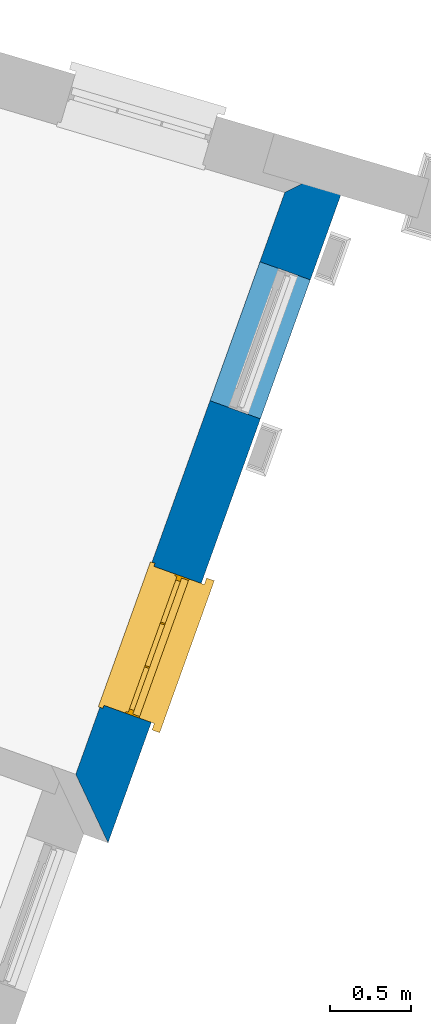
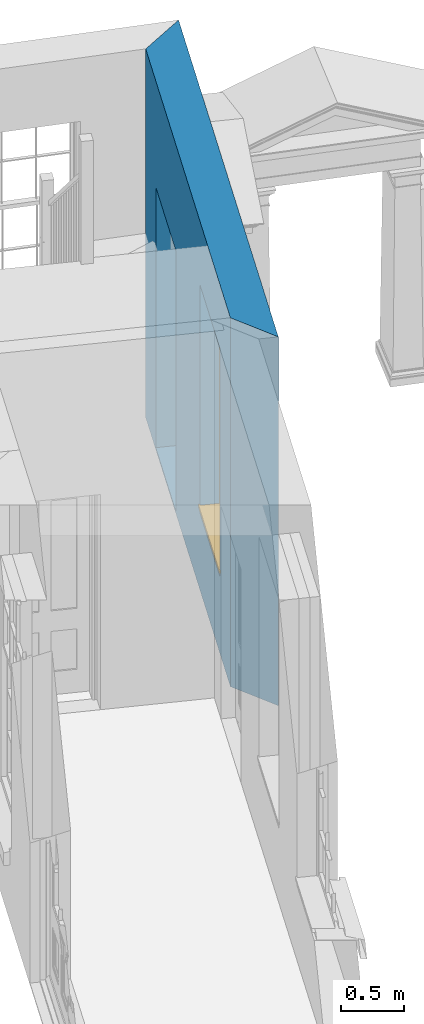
# One storey, part 5 of 7: 1 wall, 1 window, 2 openings.
"""IFC4 building model written with IfcOpenShell, lengths in metres."""

from ifc_helpers import new_model, si_unit, frame, origin, origin_with_axes, place, context, subcontext, project, spatial, polyline, outline, extrude, faceted_brep, source, transform, mapped, material, layer, layer_set, layer_usage, type_object, type_shapes, element, fill, save


model = new_model("IFC4")

# Units and contexts
model_context = context("Model", 3, world=origin_with_axes())
body_context = subcontext(model_context, "Body", "Model", "MODEL_VIEW")
ifc_project = project(units=[si_unit("PLANEANGLEUNIT", "RADIAN"), si_unit("MASSUNIT", "GRAM", prefix="KILO"), si_unit("FORCEUNIT", "NEWTON", prefix="KILO"), si_unit("LENGTHUNIT", "METRE"), si_unit("AREAUNIT", "SQUARE_METRE"), si_unit("VOLUMEUNIT", "CUBIC_METRE")], contexts=[model_context, model_context])

# Sites, building, storey
site_1_placement = place(None, origin_with_axes())
site_1 = spatial("IfcSite", under=ifc_project, at=site_1_placement, Name="Tamar")
site_2_placement = place(site_1_placement, origin_with_axes())
site_2 = spatial("IfcSite", under=site_1, at=site_2_placement, Name="Site plot-23", CompositionType="ELEMENT")
building_placement = place(None, origin_with_axes())
building = spatial("IfcBuilding", under=site_2, at=building_placement, Name="Building plot-23", CompositionType="ELEMENT")
storey_placement = place(None, frame((0.0, 0.0, 26.0), z_axis=(0.0, 0.0, 1.0), x_axis=(1.0, 0.0, 0.0)))
storey = spatial("IfcBuildingStorey", under=building, at=storey_placement, Name="plot-23 0", CompositionType="ELEMENT", Elevation=26.0)

# Wall, openings, window
ifc_material = material(Name="Masonry")
ifc_layer = layer(ifc_material, 0.33, ventilated=False)
ifc_layer_set = layer_set([ifc_layer], Name="exterior_0.08_0.25")
ifc_layer_usage = layer_usage(ifc_layer_set, "AXIS2", "POSITIVE", -0.25)
wall_type = type_object("IfcWallType", Name="exterior_0.08_0.25", PredefinedType="SOLIDWALL", material=ifc_layer_set)
wall_placement = place(storey_placement, frame((266.327315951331, 277.775915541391, 0.0), z_axis=(0.0, 0.0, 1.0), x_axis=(0.338164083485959, 0.941087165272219, 0.0)))
wall = element("IfcWall", 1, at=wall_placement, inside=storey, type_object=wall_type, material=ifc_layer_usage, Name="exterior", context=body_context, shape_type="SweptSolid", body=[
    extrude(outline(polyline([(0.0800000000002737, 0.0800000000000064), (-0.250000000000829, -0.249999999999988), (4.23925398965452, -0.249999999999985), (3.88979325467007, 0.0800000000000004), (0.0800000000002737, 0.0800000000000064)])), origin_with_axes(), (0.0, 0.0, 1.0), 3.6),
])
opening_1_placement = place(wall_placement, frame((0.538627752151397, 0.0, 0.75)))
opening_1 = element("IfcOpeningElement", 2, at=opening_1_placement, cuts=wall, Name="My Opening", ObjectType="Opening", context=body_context, shape_type="SweptSolid", body=[
    extrude(outline(polyline([(0.0, -0.270000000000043), (0.910000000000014, -0.270000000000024), (0.909999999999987, 1.09999999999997), (-2.67563748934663e-14, 1.09999999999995), (0.0, -0.270000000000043)])), origin_with_axes(), (0.0, 0.0, 1.0), 2.23),
])
opening_2_placement = place(wall_placement, frame((2.52588325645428, 0.0, 0.0199999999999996)))
element("IfcOpeningElement", 3, at=opening_2_placement, cuts=wall, Name="My Opening", ObjectType="Opening", context=body_context, shape_type="SweptSolid", body=[
    extrude(outline(polyline([(0.0, -0.270000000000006), (0.910000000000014, -0.269999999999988), (0.909999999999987, 1.10000000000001), (-2.66453525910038e-14, 1.09999999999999), (0.0, -0.270000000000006)])), origin_with_axes(), (0.0, 0.0, 1.0), 2.545),
])
window_type = type_object("IfcWindowType", Name="sash_big_taller", PartitioningType="DOUBLE_PANEL_HORIZONTAL", PredefinedType="NOTDEFINED")
shared_shape = source(origin(), body_context, "Body", "Brep", [
    faceted_brep([(0.033125, 0.145, 1.385209), (0.01, 0.145, 1.385209), (0.033125, 0.145, 1.786042), (0.876875, 0.145, 1.385209), (0.876875, 0.145, 1.786042), (0.9, 0.145, 1.385209), (0.876875, 0.145, 1.796042), (0.876875, 0.145, 2.196875), (0.9, 0.145, 2.22), (0.033125, 0.145, 2.196875), (0.033125, 0.145, 1.796042), (0.01, 0.145, 2.22), (0.876875, 0.115, 1.786042), (0.876875, 0.115, 1.385209), (0.9, 0.115, 1.347084), (0.033125, 0.115, 2.196875), (0.01, 0.115, 2.22), (0.033125, 0.115, 1.796042), (0.01, 0.115, 1.347084), (0.033125, 0.115, 1.385209), (0.033125, 0.115, 1.786042), (0.876875, 0.115, 2.196875), (0.876875, 0.115, 1.796042), (0.9, 0.115, 2.22), (0.033125, 0.145, 1.347084), (0.01, 0.145, 1.347084), (0.033125, 0.145, 0.94625), (0.876875, 0.145, 1.347084), (0.876875, 0.145, 0.94625), (0.9, 0.145, 1.347084), (0.876875, 0.145, 0.52625), (0.876875, 0.145, 0.125417), (0.9, 0.145, 0.077167), (0.033125, 0.145, 0.125417), (0.033125, 0.145, 0.52625), (0.01, 0.145, 0.077167), (-0.0425, 0.0, 0.01), (-0.0425, -0.05, 0.001667), (0.0, 0.0, 0.01), (0.9525, 0.0, 0.01), (0.91, 0.0, 0.01), (0.9525, -0.05, 0.001667), (-0.02, 0.33, 0.077167), (0.0, 0.33, 0.077167), (-0.02, 0.36, 0.077167), (0.0, 0.19, 0.077167), (0.01, 0.19, 0.077167), (0.91, 0.19, 0.077167), (0.91, 0.33, 0.077167), (0.9, 0.19, 0.077167), (0.93, 0.33, 0.077167), (0.93, 0.36, 0.077167), (0.01, 0.175, 1.385209), (0.9, 0.175, 1.385209), (0.876875, 0.175, 0.125417), (0.876875, 0.175, 0.52625), (0.9, 0.175, 0.077167), (0.876875, 0.175, 0.94625), (0.876875, 0.175, 1.347084), (0.033125, 0.175, 0.125417), (0.01, 0.175, 0.077167), (0.033125, 0.175, 0.52625), (0.033125, 0.175, 1.347084), (0.033125, 0.175, 0.94625), (-0.02, 0.33, 0.052167), (-0.02, 0.36, 0.052167), (0.93, 0.36, 0.052167), (0.93, 0.33, 0.052167), (0.91, 0.33, 0.052167), (0.0, 0.33, 0.052167), (0.91, 0.1, 0.026667), (0.0, 0.1, 0.026667), (-0.0425, -0.05, -0.123333), (0.9525, -0.05, -0.123333), (-0.0425, 0.0, -0.123333), (0.9525, 0.0, -0.123333), (0.01, 0.19, 2.22), (0.9, 0.19, 2.22), (0.0, 0.19, 2.23), (0.91, 0.19, 2.23), (0.01, 0.1, 0.077167), (0.9, 0.1, 0.077167), (0.592292, 0.145, 0.125417), (0.592292, 0.175, 0.125417), (0.317708, 0.175, 0.125417), (0.317708, 0.145, 0.125417), (0.592292, 0.145, 0.53625), (0.317708, 0.145, 0.53625), (0.317708, 0.145, 0.52625), (0.592292, 0.145, 0.52625), (0.592292, 0.175, 0.53625), (0.317708, 0.175, 0.53625), (0.592292, 0.115, 1.796042), (0.592292, 0.145, 1.796042), (0.317708, 0.145, 1.796042), (0.317708, 0.115, 1.796042), (0.317708, 0.115, 1.786042), (0.592292, 0.115, 1.786042), (0.317708, 0.145, 1.786042), (0.592292, 0.145, 1.786042), (0.602292, 0.115, 1.786042), (0.592292, 0.115, 1.385209), (0.602292, 0.115, 1.385209), (0.602292, 0.145, 1.385209), (0.592292, 0.145, 1.385209), (0.602292, 0.145, 1.786042), (0.876875, 0.145, 0.53625), (0.876875, 0.175, 0.53625), (0.602292, 0.175, 0.53625), (0.602292, 0.145, 0.53625), (0.317708, 0.175, 0.52625), (0.307708, 0.175, 0.125417), (0.307708, 0.175, 0.52625), (0.602292, 0.175, 0.52625), (0.602292, 0.175, 0.125417), (0.592292, 0.175, 0.52625), (0.307708, 0.175, 0.53625), (0.033125, 0.175, 0.53625), (0.317708, 0.175, 1.347084), (0.317708, 0.175, 0.94625), (0.307708, 0.175, 0.94625), (0.307708, 0.175, 1.347084), (0.602292, 0.175, 1.347084), (0.602292, 0.175, 0.94625), (0.592292, 0.175, 0.94625), (0.592292, 0.175, 1.347084), (0.307708, 0.145, 0.52625), (0.307708, 0.145, 0.125417), (0.307708, 0.145, 0.53625), (0.033125, 0.145, 0.53625), (0.307708, 0.145, 1.347084), (0.307708, 0.145, 0.94625), (0.592292, 0.145, 1.347084), (0.592292, 0.145, 0.94625), (0.317708, 0.145, 0.94625), (0.317708, 0.145, 1.347084), (0.602292, 0.145, 0.94625), (0.602292, 0.145, 1.347084), (0.602292, 0.145, 0.52625), (0.602292, 0.145, 0.125417), (0.307708, 0.115, 1.796042), (0.307708, 0.115, 1.786042), (0.307708, 0.115, 1.385209), (0.317708, 0.115, 1.385209), (0.317708, 0.115, 2.196875), (0.307708, 0.115, 2.196875), (0.602292, 0.115, 2.196875), (0.592292, 0.115, 2.196875), (0.602292, 0.115, 1.796042), (0.602292, 0.145, 1.796042), (0.307708, 0.145, 1.796042), (0.307708, 0.145, 2.196875), (0.317708, 0.145, 2.196875), (0.592292, 0.145, 2.196875), (0.602292, 0.145, 2.196875), (0.307708, 0.145, 1.786042), (0.317708, 0.145, 1.385209), (0.307708, 0.145, 1.385209), (0.876875, 0.175, 0.93625), (0.033125, 0.175, 0.93625), (0.033125, 0.145, 0.93625), (0.876875, 0.145, 0.93625), (0.91, 0.1, 2.23), (0.9, 0.1, 2.22), (0.01, 0.1, 2.22), (0.0, 0.1, 2.23), (0.91, 0.0, 0.0), (0.0, 0.0, 0.0), (0.91, 0.33, 0.0), (0.0, 0.33, 0.0), (0.317708, 0.145, 0.93625), (0.592292, 0.145, 0.93625), (0.317708, 0.175, 0.93625), (0.307708, 0.175, 0.93625), (0.602292, 0.175, 0.93625), (0.592292, 0.175, 0.93625), (0.307708, 0.145, 0.93625), (0.602292, 0.145, 0.93625)], [[[0, 1, 2]], [[3, 4, 5]], [[6, 7, 8]], [[9, 10, 11]], [[12, 13, 14]], [[15, 16, 17]], [[18, 19, 20]], [[21, 22, 23]], [[24, 25, 26]], [[27, 28, 29]], [[30, 31, 32]], [[33, 34, 35]], [[14, 27, 29]], [[25, 24, 18]], [[36, 37, 38]], [[39, 40, 41]], [[42, 43, 44]], [[45, 46, 43]], [[47, 48, 49]], [[50, 51, 48]], [[1, 0, 52]], [[5, 53, 3]], [[54, 55, 56]], [[57, 58, 53]], [[59, 60, 61]], [[62, 63, 52]], [[48, 43, 46, 49]], [[51, 44, 43, 48]], [[64, 42, 44, 65]], [[65, 44, 51, 66]], [[66, 51, 50, 67]], [[65, 66, 68, 69]], [[60, 56, 49, 46]], [[70, 71, 38, 40]], [[37, 41, 40, 38]], [[37, 72, 73, 41]], [[74, 75, 73, 72]], [[8, 11, 76, 77]], [[76, 78, 79, 77]], [[32, 35, 80, 81]], [[81, 80, 71, 70]], [[82, 83, 84, 85]], [[86, 87, 88, 89]], [[86, 90, 91, 87]], [[92, 93, 94, 95]], [[92, 95, 96, 97]], [[96, 98, 99, 97]], [[100, 97, 101, 102]], [[103, 104, 99, 105]], [[97, 99, 104, 101]], [[102, 103, 105, 100]], [[106, 107, 108, 109]], [[110, 84, 111, 112]], [[113, 114, 83, 115]], [[116, 112, 61, 117]], [[90, 115, 110, 91]], [[118, 119, 120, 121]], [[122, 123, 124, 125]], [[113, 108, 107, 55]], [[126, 112, 111, 127]], [[34, 61, 112, 126]], [[89, 115, 83, 82]], [[88, 110, 115, 89]], [[85, 84, 110, 88]], [[128, 116, 117, 129]], [[130, 121, 120, 131]], [[132, 125, 124, 133]], [[134, 119, 118, 135]], [[136, 123, 122, 137]], [[138, 113, 55, 30]], [[139, 114, 113, 138]], [[138, 30, 106, 109]], [[88, 126, 127, 85]], [[138, 89, 82, 139]], [[137, 132, 133, 136]], [[128, 129, 34, 126]], [[135, 130, 131, 134]], [[140, 17, 20, 141]], [[96, 141, 142, 143]], [[144, 145, 140, 95]], [[146, 147, 92, 148]], [[100, 12, 22, 148]], [[149, 6, 4, 105]], [[94, 150, 151, 152]], [[149, 93, 153, 154]], [[99, 98, 94, 93]], [[155, 2, 10, 150]], [[156, 157, 155, 98]], [[141, 155, 157, 142]], [[20, 2, 155, 141]], [[143, 156, 98, 96]], [[140, 150, 10, 17]], [[145, 151, 150, 140]], [[147, 153, 93, 92]], [[95, 94, 152, 144]], [[22, 6, 149, 148]], [[148, 149, 154, 146]], [[100, 105, 4, 12]], [[109, 86, 89, 138]], [[108, 113, 115, 90]], [[91, 110, 112, 116]], [[87, 128, 126, 88]], [[97, 100, 148, 92]], [[141, 96, 95, 140]], [[98, 155, 150, 94]], [[105, 99, 93, 149]], [[143, 101, 104, 156]], [[135, 118, 125, 132]], [[144, 152, 153, 147]], [[127, 111, 59, 33]], [[15, 9, 151, 145]], [[146, 154, 7, 21]], [[31, 54, 114, 139]], [[36, 74, 72, 37]], [[39, 41, 73, 75]], [[18, 14, 101, 143]], [[23, 16, 144, 147]], [[83, 56, 60, 84]], [[52, 53, 125, 118]], [[53, 52, 156, 104]], [[11, 8, 153, 152]], [[14, 18, 135, 132]], [[2, 1, 11, 10]], [[8, 5, 4, 6]], [[57, 53, 56, 158]], [[60, 52, 63, 159]], [[26, 25, 35, 160]], [[32, 29, 28, 161]], [[14, 23, 22, 12]], [[18, 20, 17, 16]], [[19, 0, 2, 20]], [[17, 10, 9, 15]], [[12, 4, 3, 13]], [[21, 7, 6, 22]], [[27, 58, 57, 28]], [[30, 55, 54, 31]], [[33, 59, 61, 34]], [[26, 63, 62, 24]], [[5, 8, 77, 53]], [[76, 11, 1, 52]], [[46, 45, 78, 76]], [[49, 77, 79, 47]], [[70, 162, 163, 81]], [[71, 80, 164, 165]], [[19, 142, 157, 0]], [[102, 13, 3, 103]], [[121, 130, 24, 62]], [[29, 32, 81, 14]], [[80, 35, 25, 18]], [[60, 46, 76, 52]], [[77, 49, 56, 53]], [[23, 14, 81, 163]], [[16, 164, 80, 18]], [[35, 85, 127]], [[127, 33, 35]], [[139, 82, 32]], [[32, 31, 139]], [[32, 82, 85, 35]], [[102, 101, 14]], [[14, 13, 102]], [[18, 143, 142]], [[142, 19, 18]], [[146, 21, 23]], [[23, 147, 146]], [[16, 15, 145]], [[145, 144, 16]], [[11, 152, 151]], [[151, 9, 11]], [[154, 153, 8]], [[8, 7, 154]], [[23, 163, 164, 16]], [[162, 165, 164, 163]], [[52, 118, 121]], [[121, 62, 52]], [[125, 53, 122]], [[58, 122, 53]], [[27, 137, 122, 58]], [[56, 83, 114]], [[114, 54, 56]], [[111, 84, 60]], [[60, 59, 111]], [[137, 27, 14]], [[14, 132, 137]], [[130, 135, 18]], [[18, 24, 130]], [[157, 156, 52]], [[52, 0, 157]], [[103, 3, 53]], [[53, 104, 103]], [[79, 78, 165, 162]], [[78, 45, 71, 165]], [[162, 70, 47, 79]], [[166, 75, 74, 167]], [[68, 66, 67]], [[48, 68, 67, 50]], [[69, 64, 65]], [[42, 64, 69, 43]], [[69, 68, 168, 169]], [[70, 68, 48, 47]], [[166, 168, 68, 70]], [[43, 69, 71, 45]], [[69, 169, 167, 71]], [[168, 166, 167, 169]], [[38, 167, 74, 36]], [[71, 167, 38]], [[39, 75, 166, 40]], [[40, 166, 70]], [[133, 134, 170, 171]], [[133, 124, 119, 134]], [[28, 57, 123, 136]], [[172, 91, 116, 173]], [[174, 108, 90, 175]], [[120, 173, 159, 63]], [[124, 175, 172, 119]], [[174, 123, 57, 158]], [[176, 173, 116, 128]], [[160, 159, 173, 176]], [[171, 175, 90, 86]], [[170, 172, 175, 171]], [[87, 91, 172, 170]], [[131, 120, 63, 26]], [[177, 174, 158, 161]], [[109, 108, 174, 177]], [[177, 161, 28, 136]], [[170, 176, 128, 87]], [[177, 171, 86, 109]], [[131, 26, 160, 176]], [[136, 133, 171, 177]], [[123, 174, 175, 124]], [[119, 172, 173, 120]], [[134, 131, 176, 170]], [[129, 117, 159, 160]], [[161, 158, 107, 106]], [[35, 34, 129]], [[35, 129, 160]], [[32, 106, 30]], [[32, 161, 106]], [[56, 55, 107]], [[56, 107, 158]], [[60, 117, 61]], [[60, 159, 117]]]),
])
type_shapes(window_type, [shared_shape])
window_placement = place(storey_placement, frame((266.763554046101, 278.191506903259, 0.75), z_axis=(0.0, 0.0, 1.0), x_axis=(0.30772931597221, 0.856389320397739, 0.0)))
window = element("IfcWindow", 4, at=window_placement, inside=storey, type_object=window_type, Name="circulation outside window", OverallHeight=2.23, OverallWidth=0.91, context=body_context, shape_type="MappedRepresentation", body=[
    mapped(shared_shape, transform((0.0, 0.0, 0.0), scale=1.0)),
])
fill(opening_1, window)

save(model, "model.ifc")
